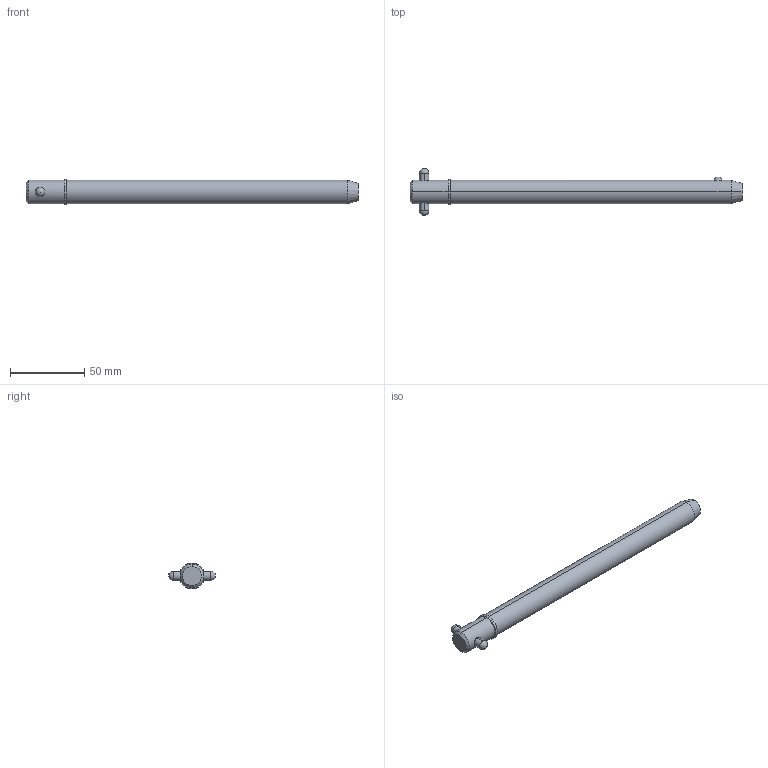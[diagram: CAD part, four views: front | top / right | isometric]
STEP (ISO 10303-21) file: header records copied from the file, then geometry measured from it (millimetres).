
FILE_DESCRIPTION (( 'STEP AP203' ), '1' );
FILE_NAME ('33018.W6270.step', '2024-11-19T17:19:34', ( '' ), ( '' ), 'SwSTEP 2.0', 'SolidWorks 2019', '' );
FILE_SCHEMA (( 'CONFIG_CONTROL_DESIGN' ));
Length unit declared in the file: millimetre
Products named in the file (3): 33018.W6270; Part1_33018.W6270; Part2_33018.W6270
Assembly tree (2 placements, depth 2):
  33018.W6270
    Part1_33018.W6270
    Part2_33018.W6270
Bounding box: 224.16 x 31.75 x 17.47 mm (x, y, z)
Volume: 44549.3 mm3; surface area: 12389.6 mm2
Topology: 2 solids, 2 shells, 22 faces, 47 edges, 30 vertices
Faces by surface type: cylinder 10, sphere 4, cone 4, plane 4
Entity records: 1047 total; most frequent: CARTESIAN_POINT 290, DIRECTION 110, ORIENTED_EDGE 82, AXIS2_PLACEMENT_3D 48, EDGE_CURVE 41, EDGE_LOOP 27, PERSON_AND_ORGANIZATION 26, VERTEX_POINT 26
